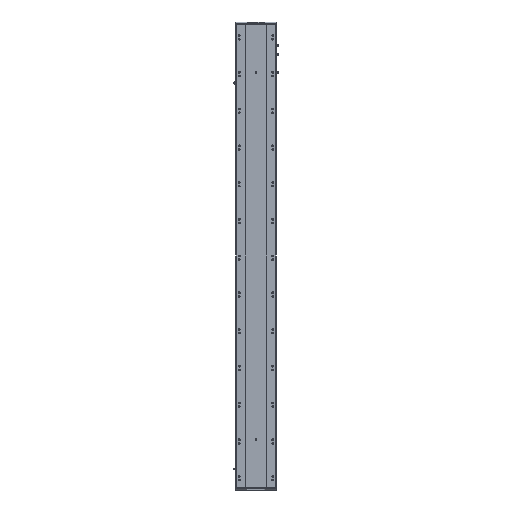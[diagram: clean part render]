
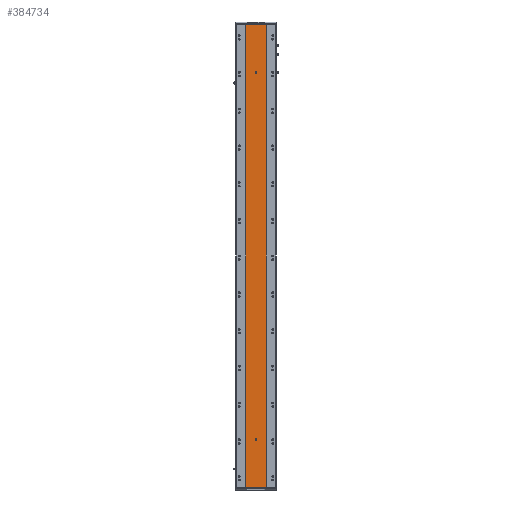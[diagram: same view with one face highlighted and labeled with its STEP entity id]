
A CAD part, front view. The second image highlights one B-rep face of the part: STEP entity #384734.
In plain terms, the highlighted planar face has unit normal (0, -1, 0).
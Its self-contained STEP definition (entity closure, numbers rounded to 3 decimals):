
#4521 = DIRECTION ( 'NONE',  ( 0., 0., -1. ) ) ;
#4770 = ORIENTED_EDGE ( 'NONE', *, *, #193961, .F. ) ;
#6793 = ORIENTED_EDGE ( 'NONE', *, *, #279975, .F. ) ;
#10572 = CIRCLE ( 'NONE', #191672, 4. ) ;
#13841 = CARTESIAN_POINT ( 'NONE',  ( 0., 0., 2520. ) ) ;
#15919 = CARTESIAN_POINT ( 'NONE',  ( 4., 0., 259. ) ) ;
#17152 = LINE ( 'NONE', #75490, #124836 ) ;
#22138 = VERTEX_POINT ( 'NONE', #15919 ) ;
#26028 = VECTOR ( 'NONE', #67242, 1000. ) ;
#46614 = DIRECTION ( 'NONE',  ( 1., 0., 0. ) ) ;
#49393 = CARTESIAN_POINT ( 'NONE',  ( -4., 0., 261. ) ) ;
#51238 = VECTOR ( 'NONE', #168499, 1000. ) ;
#55072 = EDGE_CURVE ( 'NONE', #181640, #174570, #209514, .T. ) ;
#59501 = CARTESIAN_POINT ( 'NONE',  ( 55., 0., 2520. ) ) ;
#65736 = DIRECTION ( 'NONE',  ( 0., 0., 1. ) ) ;
#67242 = DIRECTION ( 'NONE',  ( 0., 0., -1. ) ) ;
#75490 = CARTESIAN_POINT ( 'NONE',  ( 4., 0., 2520. ) ) ;
#85787 = CARTESIAN_POINT ( 'NONE',  ( 55., 0., 0. ) ) ;
#92108 = AXIS2_PLACEMENT_3D ( 'NONE', #104576, #419390, #351421 ) ;
#94902 = EDGE_CURVE ( 'NONE', #22138, #292333, #10572, .T. ) ;
#102415 = FACE_OUTER_BOUND ( 'NONE', #117454, .T. ) ;
#104219 = CARTESIAN_POINT ( 'NONE',  ( 55., 0., 2520. ) ) ;
#104576 = CARTESIAN_POINT ( 'NONE',  ( 0., 0., 2260. ) ) ;
#113166 = VECTOR ( 'NONE', #46614, 1000. ) ;
#116574 = LINE ( 'NONE', #344278, #409160 ) ;
#117081 = EDGE_CURVE ( 'NONE', #174570, #22138, #17152, .T. ) ;
#117454 = EDGE_LOOP ( 'NONE', ( #421049, #6793, #4770, #238247 ) ) ;
#124836 = VECTOR ( 'NONE', #4521, 1000. ) ;
#148532 = ORIENTED_EDGE ( 'NONE', *, *, #117081, .T. ) ;
#150503 = CIRCLE ( 'NONE', #290914, 4. ) ;
#153651 = EDGE_CURVE ( 'NONE', #367122, #429735, #116574, .T. ) ;
#165310 = DIRECTION ( 'NONE',  ( 1., 0., 0. ) ) ;
#168499 = DIRECTION ( 'NONE',  ( 0., 0., -1. ) ) ;
#173056 = DIRECTION ( 'NONE',  ( 0., -1., 0. ) ) ;
#174570 = VERTEX_POINT ( 'NONE', #372827 ) ;
#181640 = VERTEX_POINT ( 'NONE', #49393 ) ;
#186690 = EDGE_LOOP ( 'NONE', ( #441148, #386075, #148532, #253631 ) ) ;
#186973 = ORIENTED_EDGE ( 'NONE', *, *, #401624, .F. ) ;
#191420 = CARTESIAN_POINT ( 'NONE',  ( 0., 0., 261. ) ) ;
#191672 = AXIS2_PLACEMENT_3D ( 'NONE', #280069, #392949, #65736 ) ;
#193961 = EDGE_CURVE ( 'NONE', #215693, #448248, #267572, .T. ) ;
#197160 = DIRECTION ( 'NONE',  ( 0., 1., 0. ) ) ;
#206964 = EDGE_CURVE ( 'NONE', #292333, #181640, #249460, .T. ) ;
#209514 = CIRCLE ( 'NONE', #358385, 4. ) ;
#215167 = CARTESIAN_POINT ( 'NONE',  ( -4., 0., 259. ) ) ;
#215693 = VERTEX_POINT ( 'NONE', #435122 ) ;
#238247 = ORIENTED_EDGE ( 'NONE', *, *, #412324, .T. ) ;
#240459 = DIRECTION ( 'NONE',  ( 0., 0., 1. ) ) ;
#243690 = VECTOR ( 'NONE', #240459, 1000. ) ;
#249460 = LINE ( 'NONE', #416425, #243690 ) ;
#253169 = CARTESIAN_POINT ( 'NONE',  ( 0., 0., 2264. ) ) ;
#253631 = ORIENTED_EDGE ( 'NONE', *, *, #94902, .T. ) ;
#257944 = LINE ( 'NONE', #104219, #26028 ) ;
#260916 = CARTESIAN_POINT ( 'NONE',  ( 0., 0., 2520. ) ) ;
#267572 = LINE ( 'NONE', #260916, #113166 ) ;
#277956 = CARTESIAN_POINT ( 'NONE',  ( 0., 0., 2260. ) ) ;
#278949 = FACE_BOUND ( 'NONE', #186690, .T. ) ;
#279975 = EDGE_CURVE ( 'NONE', #448248, #429735, #257944, .T. ) ;
#280069 = CARTESIAN_POINT ( 'NONE',  ( 0., 0., 259. ) ) ;
#290914 = AXIS2_PLACEMENT_3D ( 'NONE', #277956, #173056, #308890 ) ;
#292333 = VERTEX_POINT ( 'NONE', #215167 ) ;
#299533 = LINE ( 'NONE', #386012, #51238 ) ;
#307359 = ORIENTED_EDGE ( 'NONE', *, *, #344234, .F. ) ;
#308890 = DIRECTION ( 'NONE',  ( 0., 0., -1. ) ) ;
#320648 = CARTESIAN_POINT ( 'NONE',  ( 0., 0., 2256. ) ) ;
#329917 = VERTEX_POINT ( 'NONE', #253169 ) ;
#332955 = EDGE_LOOP ( 'NONE', ( #307359, #186973 ) ) ;
#338240 = VERTEX_POINT ( 'NONE', #320648 ) ;
#343728 = CARTESIAN_POINT ( 'NONE',  ( -55., 0., 0. ) ) ;
#344234 = EDGE_CURVE ( 'NONE', #338240, #329917, #150503, .T. ) ;
#344278 = CARTESIAN_POINT ( 'NONE',  ( 0., 0., 0. ) ) ;
#351421 = DIRECTION ( 'NONE',  ( 0., 0., -1. ) ) ;
#358385 = AXIS2_PLACEMENT_3D ( 'NONE', #191420, #399857, #362833 ) ;
#362833 = DIRECTION ( 'NONE',  ( 0., 0., 1. ) ) ;
#367122 = VERTEX_POINT ( 'NONE', #343728 ) ;
#372827 = CARTESIAN_POINT ( 'NONE',  ( 4., 0., 261. ) ) ;
#384734 = ADVANCED_FACE ( 'NONE', ( #417190, #278949, #102415 ), #401052, .F. ) ;
#386012 = CARTESIAN_POINT ( 'NONE',  ( -55., 0., 2520. ) ) ;
#386075 = ORIENTED_EDGE ( 'NONE', *, *, #55072, .T. ) ;
#392949 = DIRECTION ( 'NONE',  ( 0., 1., 0. ) ) ;
#392986 = AXIS2_PLACEMENT_3D ( 'NONE', #13841, #197160, #445676 ) ;
#399857 = DIRECTION ( 'NONE',  ( 0., 1., 0. ) ) ;
#401052 = PLANE ( 'NONE',  #392986 ) ;
#401624 = EDGE_CURVE ( 'NONE', #329917, #338240, #439111, .T. ) ;
#409160 = VECTOR ( 'NONE', #165310, 1000. ) ;
#412324 = EDGE_CURVE ( 'NONE', #215693, #367122, #299533, .T. ) ;
#416425 = CARTESIAN_POINT ( 'NONE',  ( -4., 0., 2520. ) ) ;
#417190 = FACE_BOUND ( 'NONE', #332955, .T. ) ;
#419390 = DIRECTION ( 'NONE',  ( 0., -1., 0. ) ) ;
#421049 = ORIENTED_EDGE ( 'NONE', *, *, #153651, .T. ) ;
#429735 = VERTEX_POINT ( 'NONE', #85787 ) ;
#435122 = CARTESIAN_POINT ( 'NONE',  ( -55., 0., 2520. ) ) ;
#439111 = CIRCLE ( 'NONE', #92108, 4. ) ;
#441148 = ORIENTED_EDGE ( 'NONE', *, *, #206964, .T. ) ;
#445676 = DIRECTION ( 'NONE',  ( 0., 0., 1. ) ) ;
#448248 = VERTEX_POINT ( 'NONE', #59501 ) ;
